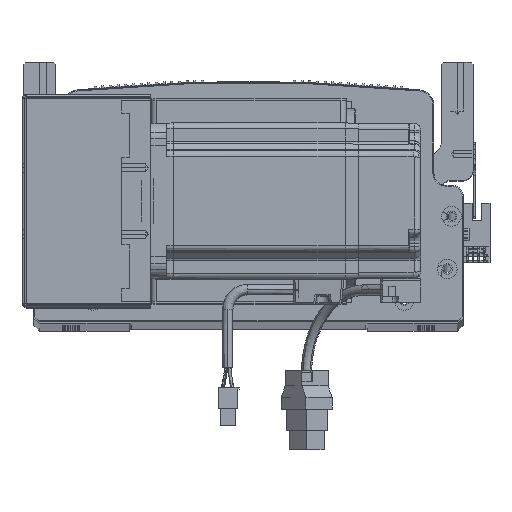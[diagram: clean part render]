
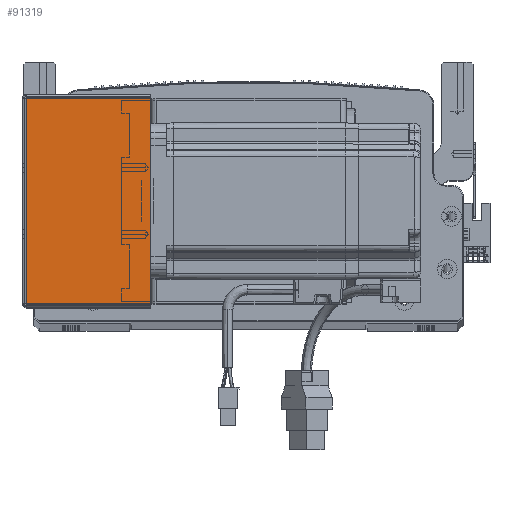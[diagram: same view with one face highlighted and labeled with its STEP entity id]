
A CAD part, top view. The second image highlights one B-rep face of the part: STEP entity #91319.
In plain terms, the highlighted planar face has unit normal (0, 0, 1) as drawn and (0, 0, -1) by its records, which use the part's own axes.
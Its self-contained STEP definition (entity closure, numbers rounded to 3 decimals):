
#11 = AXIS2_PLACEMENT_3D ( 'NONE', #79233, #35951, #56753 ) ;
#2721 = VECTOR ( 'NONE', #23142, 1000. ) ;
#4880 = ORIENTED_EDGE ( 'NONE', *, *, #79508, .F. ) ;
#6342 = VERTEX_POINT ( 'NONE', #19231 ) ;
#8010 = EDGE_CURVE ( 'NONE', #79633, #67463, #51818, .T. ) ;
#8276 = CARTESIAN_POINT ( 'NONE',  ( 0., 0.707, -205.5 ) ) ;
#10231 = DIRECTION ( 'NONE',  ( 1., 0., 0. ) ) ;
#12438 = ORIENTED_EDGE ( 'NONE', *, *, #61735, .F. ) ;
#16294 = LINE ( 'NONE', #8276, #2721 ) ;
#17948 = EDGE_CURVE ( 'NONE', #67463, #6342, #91626, .T. ) ;
#19231 = CARTESIAN_POINT ( 'NONE',  ( 64.5, 0.707, -205.5 ) ) ;
#21630 = CARTESIAN_POINT ( 'NONE',  ( 0.737, 0., -205.5 ) ) ;
#23142 = DIRECTION ( 'NONE',  ( 1., 0., 0. ) ) ;
#29295 = PLANE ( 'NONE',  #11 ) ;
#29895 = EDGE_LOOP ( 'NONE', ( #4880, #64947, #69341, #12438 ) ) ;
#31984 = FACE_OUTER_BOUND ( 'NONE', #29895, .T. ) ;
#32367 = CARTESIAN_POINT ( 'NONE',  ( 64.5, 105.293, -205.5 ) ) ;
#35951 = DIRECTION ( 'NONE',  ( 0., 0., 1. ) ) ;
#38041 = CARTESIAN_POINT ( 'NONE',  ( 0., 105.293, -205.5 ) ) ;
#51818 = LINE ( 'NONE', #38041, #92520 ) ;
#54955 = CARTESIAN_POINT ( 'NONE',  ( 64.5, 0., -205.5 ) ) ;
#56446 = VERTEX_POINT ( 'NONE', #58769 ) ;
#56753 = DIRECTION ( 'NONE',  ( 1., 0., 0. ) ) ;
#58769 = CARTESIAN_POINT ( 'NONE',  ( 0.737, 0.707, -205.5 ) ) ;
#61735 = EDGE_CURVE ( 'NONE', #56446, #6342, #16294, .T. ) ;
#63419 = LINE ( 'NONE', #21630, #92776 ) ;
#64947 = ORIENTED_EDGE ( 'NONE', *, *, #8010, .T. ) ;
#66779 = CARTESIAN_POINT ( 'NONE',  ( 0.737, 105.293, -205.5 ) ) ;
#67463 = VERTEX_POINT ( 'NONE', #32367 ) ;
#69341 = ORIENTED_EDGE ( 'NONE', *, *, #17948, .T. ) ;
#71234 = DIRECTION ( 'NONE',  ( 0., -1., 0. ) ) ;
#79196 = VECTOR ( 'NONE', #90703, 1000. ) ;
#79233 = CARTESIAN_POINT ( 'NONE',  ( 0., 0., -205.5 ) ) ;
#79508 = EDGE_CURVE ( 'NONE', #79633, #56446, #63419, .T. ) ;
#79633 = VERTEX_POINT ( 'NONE', #66779 ) ;
#90703 = DIRECTION ( 'NONE',  ( 0., -1., 0. ) ) ;
#91319 = ADVANCED_FACE ( 'NONE', ( #31984 ), #29295, .F. ) ;
#91626 = LINE ( 'NONE', #54955, #79196 ) ;
#92520 = VECTOR ( 'NONE', #10231, 1000. ) ;
#92776 = VECTOR ( 'NONE', #71234, 1000. ) ;
